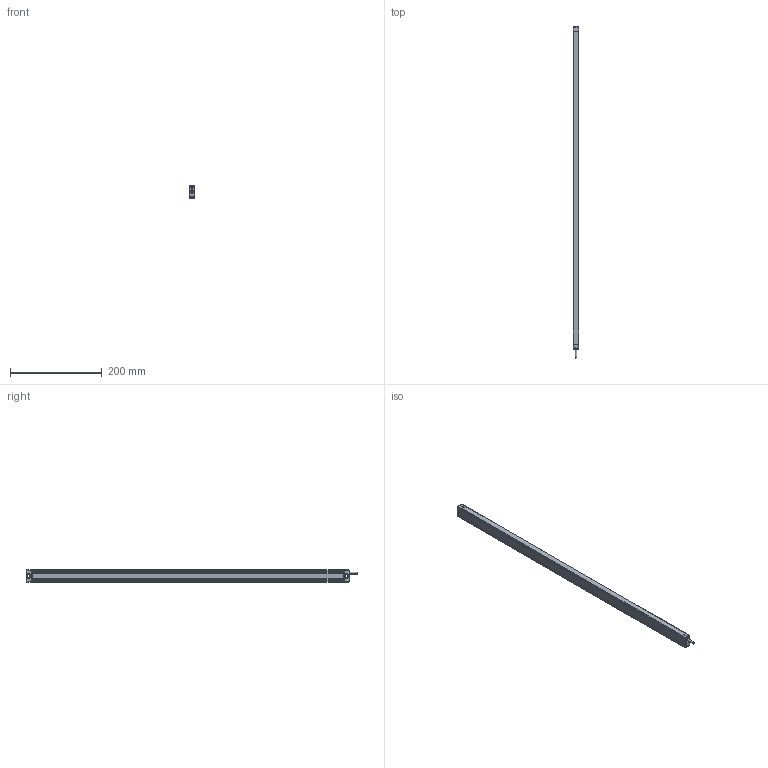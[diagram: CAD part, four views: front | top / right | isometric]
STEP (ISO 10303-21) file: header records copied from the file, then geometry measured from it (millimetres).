
FILE_DESCRIPTION((''),'2;1');
FILE_NAME('EB13-0320_ASM','2021-07-16T09:30:40',('18720616900'),(''),'CREO PARAMETRIC BY PTC INC, 2019010','CREO PARAMETRIC BY PTC INC, 2019010','');
FILE_SCHEMA(('CONFIG_CONTROL_DESIGN'));
Products named in the file (7): EB1300; 000; 0002; 0004; EB13-0320_ASM
Assembly tree (9 placements, depth 2):
  EB13-0320_ASM
    EB1300
    000
    0002
    000
    0004  x4
    000
Bounding box: 13 x 722.4 x 28 mm (x, y, z)
Volume: 264065.3 mm3; surface area: 92126.6 mm2
Topology: 9 solids, 27 shells, 1032 faces, 3520 edges, 2523 vertices
Faces by surface type: cylinder 544, plane 295, bspline 118, torus 40, sphere 31, cone 4
Entity records: 52594 total; most frequent: CARTESIAN_POINT 37957, ORIENTED_EDGE 3370, DIRECTION 2501, EDGE_CURVE 1685, VERTEX_POINT 1150, AXIS2_PLACEMENT_3D 849, VECTOR 803, LINE 803
